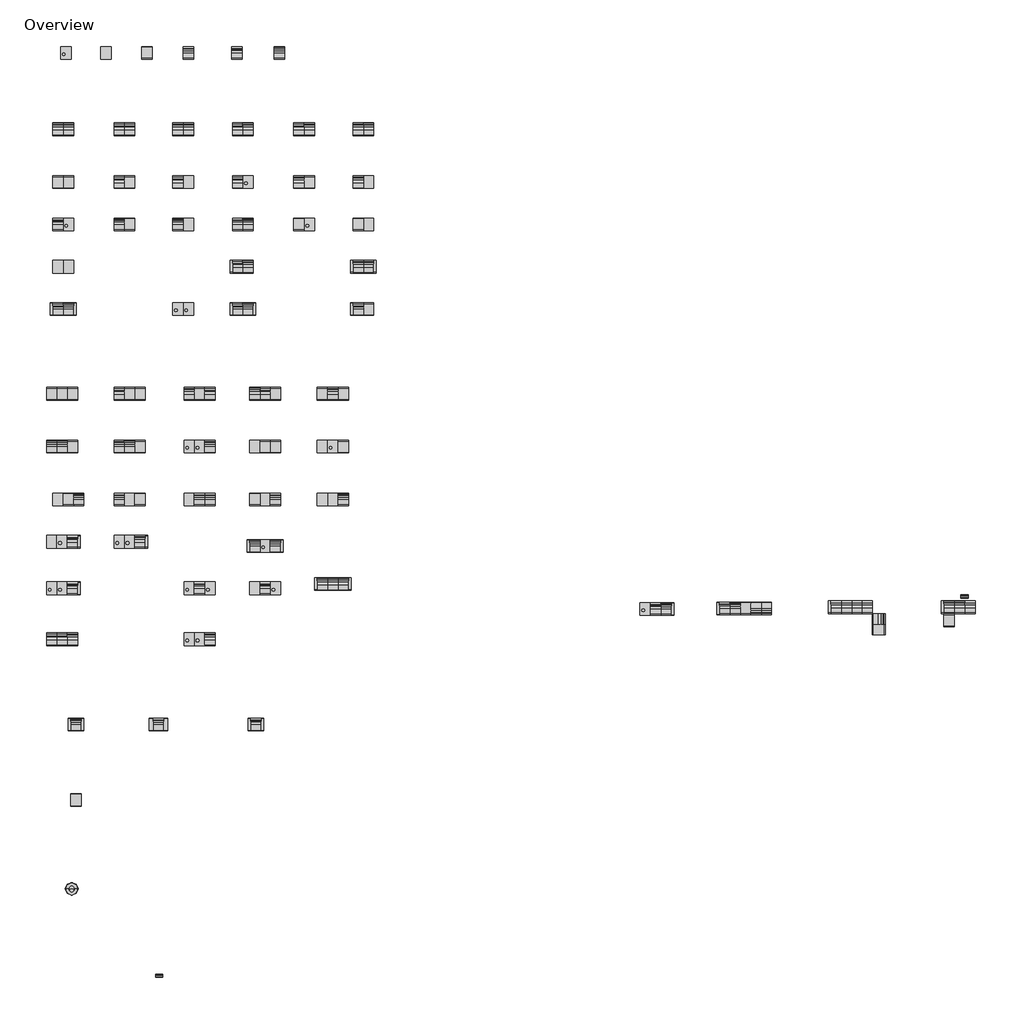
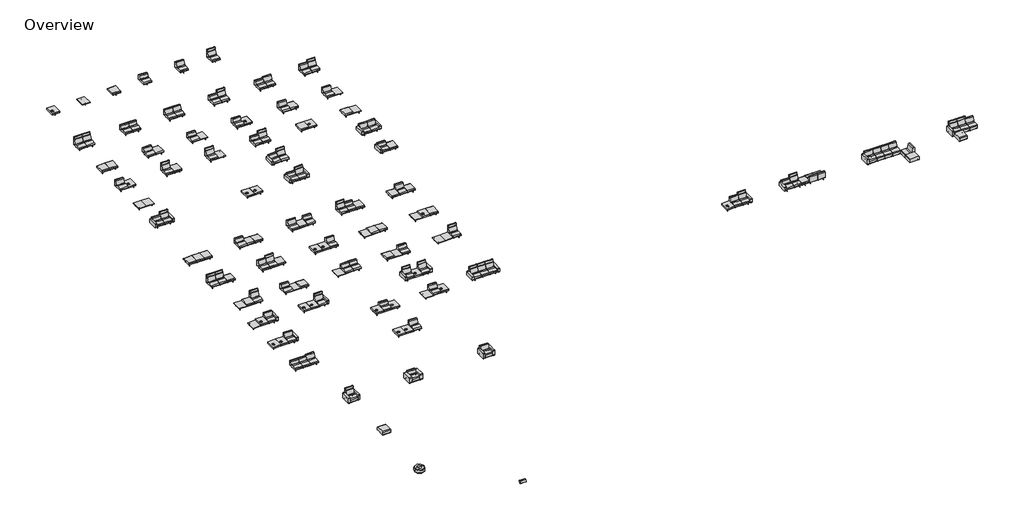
# One storey, incomplete: 76 furniture elements.
"""IFC4 building model written with IfcOpenShell, lengths in millimetres."""

from ifc_helpers import new_model, si_unit, origin, place, context, project, spatial, transform, mapped, element, save
from components import bench_5b4734e7, bench_6cfa080e, box_table_a410ddd7, coalesse_am_seating_bench_sistema_fullyupholstered_bench_4b0fb1e1, coalesse_am_seating_bench_sistema_fullyupholstered_bench_3f9c6e1c, coalesse_am_seating_loungechair_sistema_accessories_lumbar_82db962d, coalesse_am_seating_loungechair_sistema_fullyupholstered_554325c9, coalesse_am_seating_loungechair_sistema_fullyupholstered_6787f364, coalesse_am_seating_loungechair_sistema_fullyupholstered_27f036f4, coalesse_am_seating_loungechair_sistema_fullyupholstered_f212a09f, coalesse_am_seating_loungechair_sistema_fullyupholstered_low_4fc6f266, coalesse_am_seating_loungechair_sistema_fullyupholstered_low_7b113572, coalesse_am_seating_loungechair_sistema_fullyupholstered_8c61c7ce, coalesse_am_seating_loungechair_sistema_fullyupholstered_44f18496, coalesse_am_seating_loungechair_sistema_fullyupholstered_694a9448, coalesse_am_seating_ottoman_sistema_ottoman_4f4713fd, high_back_c0c03560, low_back_c2271a61, medium_back_61e54698, slim_table_b8920834, three_seat_70c7b8ac, three_seat_ff4ae967, three_seat_159c2a03, three_seat_df7bb091, three_seat_312779e2, three_seat_a38e2124, three_seat_9ff78ec4, three_seat_5b71b5bf, three_seat_15cc3591, three_seat_c71d713e, three_seat_8b8f405d, three_seat_1ac1547f, three_seat_83599c98, three_seat_1a70b45b, three_seat_eb3bdbba, three_seat_4d2d78b6, three_seat_79fc0003, three_seat_0f8700ea, three_seat_cafa8f5d, three_seat_b5197ebf, three_seat_e2fe05eb, three_seat_e902c8a6, three_seat_363ece87, three_seat_c6795c9c, two_seat_43e668df, two_seat_70676dcd, two_seat_acb1e659, two_seat_87143def, two_seat_c4276306, two_seat_2878f85a, two_seat_d666f3c4, two_seat_70e73082, two_seat_9187e65d, two_seat_11a0bdf1, two_seat_23a78b14, two_seat_81686d64, two_seat_8f00a96c, two_seat_54fc7ad5, two_seat_571620ac, two_seat_87ee643b, two_seat_fd37afd1, two_seat_1778cc0b, two_seat_900bc99d, two_seat_d71338f1, two_seat_a7b575e1, two_seat_d21a2207, two_seat_aba1a2fd, two_seat_c8171cec, two_seat_e91e775b

model = new_model("IFC4")

# Units and contexts
model_context = context("Model", 3, world=origin())
ifc_project = project(units=[si_unit("LENGTHUNIT", "METRE", prefix="MILLI")], contexts=[model_context])

# Site, building, storey
site = spatial("IfcSite", under=ifc_project)
building = spatial("IfcBuilding", under=site)
storey = spatial("IfcBuildingStorey", under=building, Name="Overview", Elevation=0.0)

# Furniture
placement = place(None, origin())
bench_shape = bench_5b4734e7(model_context)
element("IfcFurniture", 1, ObjectType="Coalesse_AM_Seating_LoungeChair_Sistema_LegBase_OneSeatConnector : Bench", at=placement, inside=storey, context=model_context, shape_type="MappedRepresentation", body=[
    mapped(bench_shape, transform((821199.0648564, -30096.9599772, 0.0), x_axis=(1.0, 0.0, 0.0), y_axis=(0.0, 1.0, 0.0), z_axis=(0.0, 0.0, 1.0))),
])
bench_2_shape = bench_6cfa080e(model_context)
element("IfcFurniture", 2, ObjectType="Coalesse_AM_Seating_LoungeChair_Sistema_LegBase_OneSeatConnector : Bench", at=placement, inside=storey, context=model_context, shape_type="MappedRepresentation", body=[
    mapped(bench_2_shape, transform((778051.7912052, 9913.5845734, 0.0), x_axis=(1.0, 0.0, 0.0), y_axis=(0.0, 1.0, 0.0), z_axis=(0.0, 0.0, 1.0))),
])
box_table_shape = box_table_a410ddd7(model_context)
element("IfcFurniture", 3, ObjectType="Coalesse_AM_Seating_LoungeChair_Sistema_LegBase_OneSeatConnector : Box Table", at=placement, inside=storey, context=model_context, shape_type="MappedRepresentation", body=[
    mapped(box_table_shape, transform((772209.7912052, 9913.5845734, 0.0), x_axis=(1.0, 0.0, 0.0), y_axis=(0.0, 1.0, 0.0), z_axis=(0.0, 0.0, 1.0))),
])
coalesse_am_seating_bench_sistema_fullyupholstered_bench_shape = coalesse_am_seating_bench_sistema_fullyupholstered_bench_4b0fb1e1(model_context)
element("IfcFurniture", 4, ObjectType="Coalesse_AM_Seating_Bench_Sistema_FullyUpholstered : Bench", at=placement, inside=storey, context=model_context, shape_type="MappedRepresentation", body=[
    mapped(coalesse_am_seating_bench_sistema_fullyupholstered_bench_shape, transform((772948.9185284, -43900.247605, 0.0), x_axis=(1.0, 0.0, 0.0), y_axis=(0.0, 1.0, 0.0), z_axis=(0.0, 0.0, 1.0))),
])
coalesse_am_seating_bench_sistema_fullyupholstered_bench_2_shape = coalesse_am_seating_bench_sistema_fullyupholstered_bench_3f9c6e1c(model_context)
element("IfcFurniture", 5, ObjectType="Coalesse_AM_Seating_Bench_Sistema_FullyUpholstered : Bench", at=placement, inside=storey, context=model_context, shape_type="MappedRepresentation", body=[
    mapped(coalesse_am_seating_bench_sistema_fullyupholstered_bench_2_shape, transform((835858.5945626, -30935.4391513, 0.0), x_axis=(1.0, 0.0, 0.0), y_axis=(0.0, 1.0, 0.0), z_axis=(0.0, 0.0, 1.0))),
])
coalesse_am_seating_loungechair_sistema_accessories_lumbar_shape = coalesse_am_seating_loungechair_sistema_accessories_lumbar_82db962d(model_context)
element("IfcFurniture", 6, ObjectType="Coalesse_AM_Seating_LoungeChair_Sistema_Accessories : Lumbar Pillow", at=placement, inside=storey, context=model_context, shape_type="MappedRepresentation", body=[
    mapped(coalesse_am_seating_loungechair_sistema_accessories_lumbar_shape, transform((778944.9101213, -56214.879267, 0.0), x_axis=(1.0, 0.0, 0.0), y_axis=(0.0, 1.0, 0.0), z_axis=(0.0, 0.0, 1.0))),
])
element("IfcFurniture", 7, ObjectType="Coalesse_AM_Seating_LoungeChair_Sistema_Accessories : Lumbar Pillow", at=placement, inside=storey, context=model_context, shape_type="MappedRepresentation", body=[
    mapped(coalesse_am_seating_loungechair_sistema_accessories_lumbar_shape, transform((836988.3637176, -28884.5637386, 0.0), x_axis=(1.0, 0.0, 0.0), y_axis=(0.0, 1.0, 0.0), z_axis=(0.0, 0.0, 1.0))),
])
element("IfcFurniture", 8, ObjectType="Coalesse_AM_Seating_LoungeChair_Sistema_FullyUpholstered : Bench", at=placement, inside=storey, context=model_context, shape_type="MappedRepresentation", body=[
    mapped(coalesse_am_seating_bench_sistema_fullyupholstered_bench_shape, transform((830810.2859285, -31601.2585067, 0.0), x_axis=(0.0, -1.0000000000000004, 0.0), y_axis=(1.0000000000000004, 0.0, 0.0), z_axis=(0.0, 0.0, 1.0))),
])
coalesse_am_seating_loungechair_sistema_fullyupholstered_shape = coalesse_am_seating_loungechair_sistema_fullyupholstered_554325c9(model_context)
element("IfcFurniture", 9, ObjectType="Coalesse_AM_Seating_LoungeChair_Sistema_FullyUpholstered : High Back", at=placement, inside=storey, context=model_context, shape_type="MappedRepresentation", body=[
    mapped(coalesse_am_seating_loungechair_sistema_fullyupholstered_shape, transform((835858.5945626, -30012.8982752, 0.0), x_axis=(1.0, 0.0, 0.0), y_axis=(0.0, 1.0, 0.0), z_axis=(0.0, 0.0, 1.0))),
])
coalesse_am_seating_loungechair_sistema_fullyupholstered_2_shape = coalesse_am_seating_loungechair_sistema_fullyupholstered_6787f364(model_context)
element("IfcFurniture", 10, ObjectType="Coalesse_AM_Seating_LoungeChair_Sistema_FullyUpholstered : High Back", at=placement, inside=storey, context=model_context, shape_type="MappedRepresentation", body=[
    mapped(coalesse_am_seating_loungechair_sistema_fullyupholstered_2_shape, transform((836610.8808787, -30012.8982752, 0.0), x_axis=(1.0, 0.0, 0.0), y_axis=(0.0, 1.0, 0.0), z_axis=(0.0, 0.0, 1.0))),
])
coalesse_am_seating_loungechair_sistema_fullyupholstered_3_shape = coalesse_am_seating_loungechair_sistema_fullyupholstered_27f036f4(model_context)
coalesse_am_seating_loungechair_sistema_fullyupholstered_4_shape = coalesse_am_seating_loungechair_sistema_fullyupholstered_f212a09f(model_context)
element("IfcFurniture", 11, ObjectType="Coalesse_AM_Seating_LoungeChair_Sistema_FullyUpholstered : High Back", at=placement, inside=storey, context=model_context, shape_type="MappedRepresentation", body=[
    mapped(coalesse_am_seating_loungechair_sistema_fullyupholstered_3_shape, transform((772948.9185284, -38456.5108615, 0.0), x_axis=(1.0, 0.0, 0.0), y_axis=(0.0, 1.0, 0.0), z_axis=(0.0, 0.0, 1.0))),
    mapped(coalesse_am_seating_loungechair_sistema_fullyupholstered_4_shape, transform((772948.9185284, -38456.5108615, 0.0), x_axis=(1.0, 0.0, 0.0), y_axis=(0.0, 1.0, 0.0), z_axis=(0.0, 0.0, 1.0))),
])
coalesse_am_seating_loungechair_sistema_fullyupholstered_low_shape = coalesse_am_seating_loungechair_sistema_fullyupholstered_low_4fc6f266(model_context)
coalesse_am_seating_loungechair_sistema_fullyupholstered_low_2_shape = coalesse_am_seating_loungechair_sistema_fullyupholstered_low_7b113572(model_context)
element("IfcFurniture", 12, ObjectType="Coalesse_AM_Seating_LoungeChair_Sistema_FullyUpholstered : Low Back", at=placement, inside=storey, context=model_context, shape_type="MappedRepresentation", body=[
    mapped(coalesse_am_seating_loungechair_sistema_fullyupholstered_low_shape, transform((778892.5185284, -38456.5108615, 0.0), x_axis=(1.0, 0.0, 0.0), y_axis=(0.0, 1.0, 0.0), z_axis=(0.0, 0.0, 1.0))),
    mapped(coalesse_am_seating_loungechair_sistema_fullyupholstered_low_2_shape, transform((778892.5185284, -38456.5108615, 0.0), x_axis=(1.0, 0.0, 0.0), y_axis=(0.0, 1.0, 0.0), z_axis=(0.0, 0.0, 1.0))),
])
coalesse_am_seating_loungechair_sistema_fullyupholstered_5_shape = coalesse_am_seating_loungechair_sistema_fullyupholstered_8c61c7ce(model_context)
element("IfcFurniture", 13, ObjectType="Coalesse_AM_Seating_LoungeChair_Sistema_FullyUpholstered : Medium Back", at=placement, inside=storey, context=model_context, shape_type="MappedRepresentation", body=[
    mapped(coalesse_am_seating_loungechair_sistema_fullyupholstered_5_shape, transform((827714.6737032, -30012.8982752, 0.0), x_axis=(1.0, 0.0, 0.0), y_axis=(0.0, 1.0, 0.0), z_axis=(0.0, 0.0, 1.0))),
])
coalesse_am_seating_loungechair_sistema_fullyupholstered_6_shape = coalesse_am_seating_loungechair_sistema_fullyupholstered_44f18496(model_context)
element("IfcFurniture", 14, ObjectType="Coalesse_AM_Seating_LoungeChair_Sistema_FullyUpholstered : Medium Back", at=placement, inside=storey, context=model_context, shape_type="MappedRepresentation", body=[
    mapped(coalesse_am_seating_loungechair_sistema_fullyupholstered_6_shape, transform((828466.9600193, -30012.8982752, 0.0), x_axis=(1.0, 0.0, 0.0), y_axis=(0.0, 1.0, 0.0), z_axis=(0.0, 0.0, 1.0))),
])
element("IfcFurniture", 15, ObjectType="Coalesse_AM_Seating_LoungeChair_Sistema_FullyUpholstered : Medium Back", at=placement, inside=storey, context=model_context, shape_type="MappedRepresentation", body=[
    mapped(coalesse_am_seating_loungechair_sistema_fullyupholstered_6_shape, transform((829219.2463355, -30012.8982752, 0.0), x_axis=(1.0, 0.0, 0.0), y_axis=(0.0, 1.0, 0.0), z_axis=(0.0, 0.0, 1.0))),
])
element("IfcFurniture", 16, ObjectType="Coalesse_AM_Seating_LoungeChair_Sistema_FullyUpholstered : Medium Back", at=placement, inside=storey, context=model_context, shape_type="MappedRepresentation", body=[
    mapped(coalesse_am_seating_loungechair_sistema_fullyupholstered_6_shape, transform((829971.5326516, -30012.8982752, 0.0), x_axis=(1.0, 0.0, 0.0), y_axis=(0.0, 1.0, 0.0), z_axis=(0.0, 0.0, 1.0))),
])
element("IfcFurniture", 17, ObjectType="Coalesse_AM_Seating_LoungeChair_Sistema_FullyUpholstered : Medium Back", at=placement, inside=storey, context=model_context, shape_type="MappedRepresentation", body=[
    mapped(coalesse_am_seating_loungechair_sistema_fullyupholstered_6_shape, transform((830810.2859285, -30848.9721906, 0.0), x_axis=(0.0, -1.0000000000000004, 0.0), y_axis=(1.0000000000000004, 0.0, 0.0), z_axis=(0.0, 0.0, 1.0))),
])
element("IfcFurniture", 18, ObjectType="Coalesse_AM_Seating_LoungeChair_Sistema_FullyUpholstered : Medium Back", at=placement, inside=storey, context=model_context, shape_type="MappedRepresentation", body=[
    mapped(coalesse_am_seating_loungechair_sistema_fullyupholstered_6_shape, transform((837363.1671949, -30012.8982752, 0.0), x_axis=(1.0, 0.0, 0.0), y_axis=(0.0, 1.0, 0.0), z_axis=(0.0, 0.0, 1.0))),
])
coalesse_am_seating_loungechair_sistema_fullyupholstered_7_shape = coalesse_am_seating_loungechair_sistema_fullyupholstered_694a9448(model_context)
element("IfcFurniture", 19, ObjectType="Coalesse_AM_Seating_LoungeChair_Sistema_FullyUpholstered : Medium Back", at=placement, inside=storey, context=model_context, shape_type="MappedRepresentation", body=[
    mapped(coalesse_am_seating_loungechair_sistema_fullyupholstered_3_shape, transform((785902.9185284, -38456.5108615, 0.0), x_axis=(1.0, 0.0, 0.0), y_axis=(0.0, 1.0, 0.0), z_axis=(0.0, 0.0, 1.0))),
    mapped(coalesse_am_seating_loungechair_sistema_fullyupholstered_7_shape, transform((785902.9185284, -38456.5108615, 0.0), x_axis=(1.0, 0.0, 0.0), y_axis=(0.0, 1.0, 0.0), z_axis=(0.0, 0.0, 1.0))),
])
coalesse_am_seating_ottoman_sistema_ottoman_shape = coalesse_am_seating_ottoman_sistema_ottoman_4f4713fd(model_context)
element("IfcFurniture", 20, ObjectType="Coalesse_AM_Seating_Ottoman_Sistema : Ottoman", at=placement, inside=storey, context=model_context, shape_type="MappedRepresentation", body=[
    mapped(coalesse_am_seating_ottoman_sistema_ottoman_shape, transform((772640.8280656, -49922.881785, 0.0), x_axis=(1.0, 0.0, 0.0), y_axis=(0.0, 1.0, 0.0), z_axis=(0.0, 0.0, 1.0))),
])
high_back_shape = high_back_c0c03560(model_context)
element("IfcFurniture", 21, ObjectType="Coalesse_AM_Seating_LoungeChair_Sistema_LegBase_OneSeatConnector : High Back", at=placement, inside=storey, context=model_context, shape_type="MappedRepresentation", body=[
    mapped(high_back_shape, transform((787602.1912052, 9913.5845734, 0.0), x_axis=(1.0, 0.0, 0.0), y_axis=(0.0, 1.0, 0.0), z_axis=(0.0, 0.0, 1.0))),
])
low_back_shape = low_back_c2271a61(model_context)
element("IfcFurniture", 22, ObjectType="Coalesse_AM_Seating_LoungeChair_Sistema_LegBase_OneSeatConnector : Low Back", at=placement, inside=storey, context=model_context, shape_type="MappedRepresentation", body=[
    mapped(low_back_shape, transform((781048.9912052, 9913.5845734, 0.0), x_axis=(1.0, 0.0, 0.0), y_axis=(0.0, 1.0, 0.0), z_axis=(0.0, 0.0, 1.0))),
])
medium_back_shape = medium_back_61e54698(model_context)
element("IfcFurniture", 23, ObjectType="Coalesse_AM_Seating_LoungeChair_Sistema_LegBase_OneSeatConnector : Medium Back", at=placement, inside=storey, context=model_context, shape_type="MappedRepresentation", body=[
    mapped(medium_back_shape, transform((784554.1912052, 9913.5845734, 0.0), x_axis=(1.0, 0.0, 0.0), y_axis=(0.0, 1.0, 0.0), z_axis=(0.0, 0.0, 1.0))),
])
slim_table_shape = slim_table_b8920834(model_context)
element("IfcFurniture", 24, ObjectType="Coalesse_AM_Seating_LoungeChair_Sistema_LegBase_OneSeatConnector : Slim Table", at=placement, inside=storey, context=model_context, shape_type="MappedRepresentation", body=[
    mapped(slim_table_shape, transform((775105.3912052, 9913.5845734, 0.0), x_axis=(1.0, 0.0, 0.0), y_axis=(0.0, 1.0, 0.0), z_axis=(0.0, 0.0, 1.0))),
])
three_seat_shape = three_seat_70c7b8ac(model_context)
element("IfcFurniture", 25, ObjectType="Coalesse_AM_Seating_LoungeChair_Sistema_LegBase_ThreeSeat : Three Seat", at=placement, inside=storey, context=model_context, shape_type="MappedRepresentation", body=[
    mapped(three_seat_shape, transform((781106.6177168, -18439.1654266, 0.0), x_axis=(1.0, 0.0, 0.0), y_axis=(0.0, 1.0, 0.0), z_axis=(0.0, 0.0, 1.0))),
])
element("IfcFurniture", 26, ObjectType="Coalesse_AM_Seating_LoungeChair_Sistema_LegBase_ThreeSeat : Three Seat", at=placement, inside=storey, context=model_context, shape_type="MappedRepresentation", body=[
    mapped(three_seat_shape, transform((781106.6177168, -32307.5654266, 0.0), x_axis=(1.0, 0.0, 0.0), y_axis=(0.0, 1.0, 0.0), z_axis=(0.0, 0.0, 1.0))),
])
three_seat_2_shape = three_seat_ff4ae967(model_context)
element("IfcFurniture", 27, ObjectType="Coalesse_AM_Seating_LoungeChair_Sistema_LegBase_ThreeSeat : Three Seat", at=placement, inside=storey, context=model_context, shape_type="MappedRepresentation", body=[
    mapped(three_seat_2_shape, transform((771200.6177168, -14629.1654266, 0.0), x_axis=(1.0, 0.0, 0.0), y_axis=(0.0, 1.0, 0.0), z_axis=(0.0, 0.0, 1.0))),
])
three_seat_3_shape = three_seat_159c2a03(model_context)
element("IfcFurniture", 28, ObjectType="Coalesse_AM_Seating_LoungeChair_Sistema_LegBase_ThreeSeat : Three Seat", at=placement, inside=storey, context=model_context, shape_type="MappedRepresentation", body=[
    mapped(three_seat_3_shape, transform((813975.7975806, -30133.5452116, 0.0), x_axis=(1.0, 0.0, 0.0), y_axis=(0.0, 1.0, 0.0), z_axis=(0.0, 0.0, 1.0))),
])
three_seat_4_shape = three_seat_df7bb091(model_context)
element("IfcFurniture", 29, ObjectType="Coalesse_AM_Seating_LoungeChair_Sistema_LegBase_ThreeSeat : Three Seat", at=placement, inside=storey, context=model_context, shape_type="MappedRepresentation", body=[
    mapped(three_seat_4_shape, transform((776062.9801203, -14629.1654266, 0.0), x_axis=(1.0, 0.0, 0.0), y_axis=(0.0, 1.0, 0.0), z_axis=(0.0, 0.0, 1.0))),
])
three_seat_5_shape = three_seat_312779e2(model_context)
element("IfcFurniture", 30, ObjectType="Coalesse_AM_Seating_LoungeChair_Sistema_LegBase_ThreeSeat : Three Seat", at=placement, inside=storey, context=model_context, shape_type="MappedRepresentation", body=[
    mapped(three_seat_5_shape, transform((781106.6177168, -14629.1654266, 0.0), x_axis=(1.0, 0.0, 0.0), y_axis=(0.0, 1.0, 0.0), z_axis=(0.0, 0.0, 1.0))),
])
three_seat_6_shape = three_seat_a38e2124(model_context)
element("IfcFurniture", 31, ObjectType="Coalesse_AM_Seating_LoungeChair_Sistema_LegBase_ThreeSeat : Three Seat", at=placement, inside=storey, context=model_context, shape_type="MappedRepresentation", body=[
    mapped(three_seat_6_shape, transform((785831.0177168, -14629.1654266, 0.0), x_axis=(1.0, 0.0, 0.0), y_axis=(0.0, 1.0, 0.0), z_axis=(0.0, 0.0, 1.0))),
])
three_seat_7_shape = three_seat_9ff78ec4(model_context)
element("IfcFurniture", 32, ObjectType="Coalesse_AM_Seating_LoungeChair_Sistema_LegBase_ThreeSeat : Three Seat", at=placement, inside=storey, context=model_context, shape_type="MappedRepresentation", body=[
    mapped(three_seat_7_shape, transform((790707.8177168, -14629.1654266, 0.0), x_axis=(1.0, 0.0, 0.0), y_axis=(0.0, 1.0, 0.0), z_axis=(0.0, 0.0, 1.0))),
])
three_seat_8_shape = three_seat_5b71b5bf(model_context)
element("IfcFurniture", 33, ObjectType="Coalesse_AM_Seating_LoungeChair_Sistema_LegBase_ThreeSeat : Three Seat", at=placement, inside=storey, context=model_context, shape_type="MappedRepresentation", body=[
    mapped(three_seat_8_shape, transform((771200.6177168, -18439.1654266, 0.0), x_axis=(1.0, 0.0, 0.0), y_axis=(0.0, 1.0, 0.0), z_axis=(0.0, 0.0, 1.0))),
])
three_seat_9_shape = three_seat_15cc3591(model_context)
element("IfcFurniture", 34, ObjectType="Coalesse_AM_Seating_LoungeChair_Sistema_LegBase_ThreeSeat : Three Seat", at=placement, inside=storey, context=model_context, shape_type="MappedRepresentation", body=[
    mapped(three_seat_9_shape, transform((776062.9801203, -18439.1654266, 0.0), x_axis=(1.0, 0.0, 0.0), y_axis=(0.0, 1.0, 0.0), z_axis=(0.0, 0.0, 1.0))),
])
three_seat_10_shape = three_seat_c71d713e(model_context)
element("IfcFurniture", 35, ObjectType="Coalesse_AM_Seating_LoungeChair_Sistema_LegBase_ThreeSeat : Three Seat", at=placement, inside=storey, context=model_context, shape_type="MappedRepresentation", body=[
    mapped(three_seat_10_shape, transform((785831.0177168, -18439.1654266, 0.0), x_axis=(1.0, 0.0, 0.0), y_axis=(0.0, 1.0, 0.0), z_axis=(0.0, 0.0, 1.0))),
])
three_seat_11_shape = three_seat_8b8f405d(model_context)
element("IfcFurniture", 36, ObjectType="Coalesse_AM_Seating_LoungeChair_Sistema_LegBase_ThreeSeat : Three Seat", at=placement, inside=storey, context=model_context, shape_type="MappedRepresentation", body=[
    mapped(three_seat_11_shape, transform((790707.8177168, -18439.1654266, 0.0), x_axis=(1.0, 0.0, 0.0), y_axis=(0.0, 1.0, 0.0), z_axis=(0.0, 0.0, 1.0))),
])
three_seat_12_shape = three_seat_1ac1547f(model_context)
element("IfcFurniture", 37, ObjectType="Coalesse_AM_Seating_LoungeChair_Sistema_LegBase_ThreeSeat : Three Seat", at=placement, inside=storey, context=model_context, shape_type="MappedRepresentation", body=[
    mapped(three_seat_12_shape, transform((771645.1177168, -22249.1654266, 0.0), x_axis=(1.0, 0.0, 0.0), y_axis=(0.0, 1.0, 0.0), z_axis=(0.0, 0.0, 1.0))),
])
three_seat_13_shape = three_seat_83599c98(model_context)
element("IfcFurniture", 38, ObjectType="Coalesse_AM_Seating_LoungeChair_Sistema_LegBase_ThreeSeat : Three Seat", at=placement, inside=storey, context=model_context, shape_type="MappedRepresentation", body=[
    mapped(three_seat_13_shape, transform((776062.9801203, -22249.1654266, 0.0), x_axis=(1.0, 0.0, 0.0), y_axis=(0.0, 1.0, 0.0), z_axis=(0.0, 0.0, 1.0))),
])
three_seat_14_shape = three_seat_1a70b45b(model_context)
element("IfcFurniture", 39, ObjectType="Coalesse_AM_Seating_LoungeChair_Sistema_LegBase_ThreeSeat : Three Seat", at=placement, inside=storey, context=model_context, shape_type="MappedRepresentation", body=[
    mapped(three_seat_14_shape, transform((781106.6177168, -22249.1654266, 0.0), x_axis=(1.0, 0.0, 0.0), y_axis=(0.0, 1.0, 0.0), z_axis=(0.0, 0.0, 1.0))),
])
three_seat_15_shape = three_seat_eb3bdbba(model_context)
element("IfcFurniture", 40, ObjectType="Coalesse_AM_Seating_LoungeChair_Sistema_LegBase_ThreeSeat : Three Seat", at=placement, inside=storey, context=model_context, shape_type="MappedRepresentation", body=[
    mapped(three_seat_15_shape, transform((785831.0177168, -22249.1654266, 0.0), x_axis=(1.0, 0.0, 0.0), y_axis=(0.0, 1.0, 0.0), z_axis=(0.0, 0.0, 1.0))),
])
three_seat_16_shape = three_seat_4d2d78b6(model_context)
element("IfcFurniture", 41, ObjectType="Coalesse_AM_Seating_LoungeChair_Sistema_LegBase_ThreeSeat : Three Seat", at=placement, inside=storey, context=model_context, shape_type="MappedRepresentation", body=[
    mapped(three_seat_16_shape, transform((790707.8177168, -22249.1654266, 0.0), x_axis=(1.0, 0.0, 0.0), y_axis=(0.0, 1.0, 0.0), z_axis=(0.0, 0.0, 1.0))),
])
three_seat_17_shape = three_seat_79fc0003(model_context)
element("IfcFurniture", 42, ObjectType="Coalesse_AM_Seating_LoungeChair_Sistema_LegBase_ThreeSeat : Three Seat", at=placement, inside=storey, context=model_context, shape_type="MappedRepresentation", body=[
    mapped(three_seat_17_shape, transform((771200.6177168, -25297.1654266, 0.0), x_axis=(1.0, 0.0, 0.0), y_axis=(0.0, 1.0, 0.0), z_axis=(0.0, 0.0, 1.0))),
])
three_seat_18_shape = three_seat_0f8700ea(model_context)
element("IfcFurniture", 43, ObjectType="Coalesse_AM_Seating_LoungeChair_Sistema_LegBase_ThreeSeat : Three Seat", at=placement, inside=storey, context=model_context, shape_type="MappedRepresentation", body=[
    mapped(three_seat_18_shape, transform((776062.9801203, -25297.1654266, 0.0), x_axis=(1.0, 0.0, 0.0), y_axis=(0.0, 1.0, 0.0), z_axis=(0.0, 0.0, 1.0))),
])
three_seat_19_shape = three_seat_cafa8f5d(model_context)
element("IfcFurniture", 44, ObjectType="Coalesse_AM_Seating_LoungeChair_Sistema_LegBase_ThreeSeat : Three Seat", at=placement, inside=storey, context=model_context, shape_type="MappedRepresentation", body=[
    mapped(three_seat_19_shape, transform((785831.0177168, -25601.9654266, 0.0), x_axis=(1.0, 0.0, 0.0), y_axis=(0.0, 1.0, 0.0), z_axis=(0.0, 0.0, 1.0))),
])
three_seat_20_shape = three_seat_b5197ebf(model_context)
element("IfcFurniture", 45, ObjectType="Coalesse_AM_Seating_LoungeChair_Sistema_LegBase_ThreeSeat : Three Seat", at=placement, inside=storey, context=model_context, shape_type="MappedRepresentation", body=[
    mapped(three_seat_20_shape, transform((771200.6177168, -28649.9654266, 0.0), x_axis=(1.0, 0.0, 0.0), y_axis=(0.0, 1.0, 0.0), z_axis=(0.0, 0.0, 1.0))),
])
three_seat_21_shape = three_seat_e2fe05eb(model_context)
element("IfcFurniture", 46, ObjectType="Coalesse_AM_Seating_LoungeChair_Sistema_LegBase_ThreeSeat : Three Seat", at=placement, inside=storey, context=model_context, shape_type="MappedRepresentation", body=[
    mapped(three_seat_21_shape, transform((781106.6177168, -28649.9654266, 0.0), x_axis=(1.0, 0.0, 0.0), y_axis=(0.0, 1.0, 0.0), z_axis=(0.0, 0.0, 1.0))),
])
three_seat_22_shape = three_seat_e902c8a6(model_context)
element("IfcFurniture", 47, ObjectType="Coalesse_AM_Seating_LoungeChair_Sistema_LegBase_ThreeSeat : Three Seat", at=placement, inside=storey, context=model_context, shape_type="MappedRepresentation", body=[
    mapped(three_seat_22_shape, transform((785831.0177168, -28649.9654266, 0.0), x_axis=(1.0, 0.0, 0.0), y_axis=(0.0, 1.0, 0.0), z_axis=(0.0, 0.0, 1.0))),
])
three_seat_23_shape = three_seat_363ece87(model_context)
element("IfcFurniture", 48, ObjectType="Coalesse_AM_Seating_LoungeChair_Sistema_LegBase_ThreeSeat : Three Seat", at=placement, inside=storey, context=model_context, shape_type="MappedRepresentation", body=[
    mapped(three_seat_23_shape, transform((790707.8177168, -28345.1654266, 0.0), x_axis=(1.0, 0.0, 0.0), y_axis=(0.0, 1.0, 0.0), z_axis=(0.0, 0.0, 1.0))),
])
three_seat_24_shape = three_seat_c6795c9c(model_context)
element("IfcFurniture", 49, ObjectType="Coalesse_AM_Seating_LoungeChair_Sistema_LegBase_ThreeSeat : Three Seat", at=placement, inside=storey, context=model_context, shape_type="MappedRepresentation", body=[
    mapped(three_seat_24_shape, transform((771200.6177168, -32307.5654266, 0.0), x_axis=(1.0, 0.0, 0.0), y_axis=(0.0, 1.0, 0.0), z_axis=(0.0, 0.0, 1.0))),
])
two_seat_shape = two_seat_43e668df(model_context)
element("IfcFurniture", 50, ObjectType="Coalesse_AM_Seating_LoungeChair_Sistema_LegBase_TwoSeat : Two Seat", at=placement, inside=storey, context=model_context, shape_type="MappedRepresentation", body=[
    mapped(two_seat_shape, transform((784599.1177168, 4420.8345734, 0.0), x_axis=(1.0, 0.0, 0.0), y_axis=(0.0, 1.0, 0.0), z_axis=(0.0, 0.0, 1.0))),
])
element("IfcFurniture", 51, ObjectType="Coalesse_AM_Seating_LoungeChair_Sistema_LegBase_TwoSeat : Two Seat", at=placement, inside=storey, context=model_context, shape_type="MappedRepresentation", body=[
    mapped(two_seat_shape, transform((784599.1177168, -2437.1654266, 0.0), x_axis=(1.0, 0.0, 0.0), y_axis=(0.0, 1.0, 0.0), z_axis=(0.0, 0.0, 1.0))),
])
two_seat_2_shape = two_seat_70676dcd(model_context)
element("IfcFurniture", 52, ObjectType="Coalesse_AM_Seating_LoungeChair_Sistema_LegBase_TwoSeat : Two Seat", at=placement, inside=storey, context=model_context, shape_type="MappedRepresentation", body=[
    mapped(two_seat_2_shape, transform((771645.1177168, 4420.8345734, 0.0), x_axis=(1.0, 0.0, 0.0), y_axis=(0.0, 1.0, 0.0), z_axis=(0.0, 0.0, 1.0))),
])
two_seat_3_shape = two_seat_acb1e659(model_context)
element("IfcFurniture", 53, ObjectType="Coalesse_AM_Seating_LoungeChair_Sistema_LegBase_TwoSeat : Two Seat", at=placement, inside=storey, context=model_context, shape_type="MappedRepresentation", body=[
    mapped(two_seat_3_shape, transform((819700.4648564, -30096.9599772, 0.0), x_axis=(1.0, 0.0, 0.0), y_axis=(0.0, 1.0, 0.0), z_axis=(0.0, 0.0, 1.0))),
])
two_seat_4_shape = two_seat_87143def(model_context)
element("IfcFurniture", 54, ObjectType="Coalesse_AM_Seating_LoungeChair_Sistema_LegBase_TwoSeat : Two Seat", at=placement, inside=storey, context=model_context, shape_type="MappedRepresentation", body=[
    mapped(two_seat_4_shape, transform((821951.3511726, -30098.7508533, 0.0), x_axis=(1.0, 0.0, 0.0), y_axis=(0.0, 1.0, 0.0), z_axis=(0.0, 0.0, 1.0))),
])
two_seat_5_shape = two_seat_c4276306(model_context)
element("IfcFurniture", 55, ObjectType="Coalesse_AM_Seating_LoungeChair_Sistema_LegBase_TwoSeat : Two Seat", at=placement, inside=storey, context=model_context, shape_type="MappedRepresentation", body=[
    mapped(two_seat_5_shape, transform((776062.9801203, 4420.8345734, 0.0), x_axis=(1.0, 0.0, 0.0), y_axis=(0.0, 1.0, 0.0), z_axis=(0.0, 0.0, 1.0))),
])
two_seat_6_shape = two_seat_2878f85a(model_context)
element("IfcFurniture", 56, ObjectType="Coalesse_AM_Seating_LoungeChair_Sistema_LegBase_TwoSeat : Two Seat", at=placement, inside=storey, context=model_context, shape_type="MappedRepresentation", body=[
    mapped(two_seat_6_shape, transform((780299.8446826, 4420.8345734, 0.0), x_axis=(1.0, 0.0, 0.0), y_axis=(0.0, 1.0, 0.0), z_axis=(0.0, 0.0, 1.0))),
])
two_seat_7_shape = two_seat_d666f3c4(model_context)
element("IfcFurniture", 57, ObjectType="Coalesse_AM_Seating_LoungeChair_Sistema_LegBase_TwoSeat : Two Seat", at=placement, inside=storey, context=model_context, shape_type="MappedRepresentation", body=[
    mapped(two_seat_7_shape, transform((789018.7177168, 4420.8345734, 0.0), x_axis=(1.0, 0.0, 0.0), y_axis=(0.0, 1.0, 0.0), z_axis=(0.0, 0.0, 1.0))),
])
two_seat_8_shape = two_seat_70e73082(model_context)
element("IfcFurniture", 58, ObjectType="Coalesse_AM_Seating_LoungeChair_Sistema_LegBase_TwoSeat : Two Seat", at=placement, inside=storey, context=model_context, shape_type="MappedRepresentation", body=[
    mapped(two_seat_8_shape, transform((793285.9177168, 4420.8345734, 0.0), x_axis=(1.0, 0.0, 0.0), y_axis=(0.0, 1.0, 0.0), z_axis=(0.0, 0.0, 1.0))),
])
two_seat_9_shape = two_seat_9187e65d(model_context)
element("IfcFurniture", 59, ObjectType="Coalesse_AM_Seating_LoungeChair_Sistema_LegBase_TwoSeat : Two Seat", at=placement, inside=storey, context=model_context, shape_type="MappedRepresentation", body=[
    mapped(two_seat_9_shape, transform((771645.1177168, 610.8345734, 0.0), x_axis=(1.0, 0.0, 0.0), y_axis=(0.0, 1.0, 0.0), z_axis=(0.0, 0.0, 1.0))),
])
two_seat_10_shape = two_seat_11a0bdf1(model_context)
element("IfcFurniture", 60, ObjectType="Coalesse_AM_Seating_LoungeChair_Sistema_LegBase_TwoSeat : Two Seat", at=placement, inside=storey, context=model_context, shape_type="MappedRepresentation", body=[
    mapped(two_seat_10_shape, transform((776062.9801203, 610.8345734, 0.0), x_axis=(1.0, 0.0, 0.0), y_axis=(0.0, 1.0, 0.0), z_axis=(0.0, 0.0, 1.0))),
])
two_seat_11_shape = two_seat_23a78b14(model_context)
element("IfcFurniture", 61, ObjectType="Coalesse_AM_Seating_LoungeChair_Sistema_LegBase_TwoSeat : Two Seat", at=placement, inside=storey, context=model_context, shape_type="MappedRepresentation", body=[
    mapped(two_seat_11_shape, transform((780299.8446826, 610.8345734, 0.0), x_axis=(1.0, 0.0, 0.0), y_axis=(0.0, 1.0, 0.0), z_axis=(0.0, 0.0, 1.0))),
])
two_seat_12_shape = two_seat_81686d64(model_context)
element("IfcFurniture", 62, ObjectType="Coalesse_AM_Seating_LoungeChair_Sistema_LegBase_TwoSeat : Two Seat", at=placement, inside=storey, context=model_context, shape_type="MappedRepresentation", body=[
    mapped(two_seat_12_shape, transform((784599.1177168, 610.8345734, 0.0), x_axis=(1.0, 0.0, 0.0), y_axis=(0.0, 1.0, 0.0), z_axis=(0.0, 0.0, 1.0))),
])
two_seat_13_shape = two_seat_8f00a96c(model_context)
element("IfcFurniture", 63, ObjectType="Coalesse_AM_Seating_LoungeChair_Sistema_LegBase_TwoSeat : Two Seat", at=placement, inside=storey, context=model_context, shape_type="MappedRepresentation", body=[
    mapped(two_seat_13_shape, transform((789018.7177168, 610.8345734, 0.0), x_axis=(1.0, 0.0, 0.0), y_axis=(0.0, 1.0, 0.0), z_axis=(0.0, 0.0, 1.0))),
])
two_seat_14_shape = two_seat_54fc7ad5(model_context)
element("IfcFurniture", 64, ObjectType="Coalesse_AM_Seating_LoungeChair_Sistema_LegBase_TwoSeat : Two Seat", at=placement, inside=storey, context=model_context, shape_type="MappedRepresentation", body=[
    mapped(two_seat_14_shape, transform((793285.9177168, 610.8345734, 0.0), x_axis=(1.0, 0.0, 0.0), y_axis=(0.0, 1.0, 0.0), z_axis=(0.0, 0.0, 1.0))),
])
two_seat_15_shape = two_seat_571620ac(model_context)
element("IfcFurniture", 65, ObjectType="Coalesse_AM_Seating_LoungeChair_Sistema_LegBase_TwoSeat : Two Seat", at=placement, inside=storey, context=model_context, shape_type="MappedRepresentation", body=[
    mapped(two_seat_15_shape, transform((771645.1177168, -2437.1654266, 0.0), x_axis=(1.0, 0.0, 0.0), y_axis=(0.0, 1.0, 0.0), z_axis=(0.0, 0.0, 1.0))),
])
two_seat_16_shape = two_seat_87ee643b(model_context)
element("IfcFurniture", 66, ObjectType="Coalesse_AM_Seating_LoungeChair_Sistema_LegBase_TwoSeat : Two Seat", at=placement, inside=storey, context=model_context, shape_type="MappedRepresentation", body=[
    mapped(two_seat_16_shape, transform((776062.9801203, -2437.1654266, 0.0), x_axis=(1.0, 0.0, 0.0), y_axis=(0.0, 1.0, 0.0), z_axis=(0.0, 0.0, 1.0))),
])
two_seat_17_shape = two_seat_fd37afd1(model_context)
element("IfcFurniture", 67, ObjectType="Coalesse_AM_Seating_LoungeChair_Sistema_LegBase_TwoSeat : Two Seat", at=placement, inside=storey, context=model_context, shape_type="MappedRepresentation", body=[
    mapped(two_seat_17_shape, transform((780299.8446826, -2437.1654266, 0.0), x_axis=(1.0, 0.0, 0.0), y_axis=(0.0, 1.0, 0.0), z_axis=(0.0, 0.0, 1.0))),
])
two_seat_18_shape = two_seat_1778cc0b(model_context)
element("IfcFurniture", 68, ObjectType="Coalesse_AM_Seating_LoungeChair_Sistema_LegBase_TwoSeat : Two Seat", at=placement, inside=storey, context=model_context, shape_type="MappedRepresentation", body=[
    mapped(two_seat_18_shape, transform((789018.7177168, -2437.1654266, 0.0), x_axis=(1.0, 0.0, 0.0), y_axis=(0.0, 1.0, 0.0), z_axis=(0.0, 0.0, 1.0))),
])
two_seat_19_shape = two_seat_900bc99d(model_context)
element("IfcFurniture", 69, ObjectType="Coalesse_AM_Seating_LoungeChair_Sistema_LegBase_TwoSeat : Two Seat", at=placement, inside=storey, context=model_context, shape_type="MappedRepresentation", body=[
    mapped(two_seat_19_shape, transform((793285.9177168, -2437.1654266, 0.0), x_axis=(1.0, 0.0, 0.0), y_axis=(0.0, 1.0, 0.0), z_axis=(0.0, 0.0, 1.0))),
])
two_seat_20_shape = two_seat_d71338f1(model_context)
element("IfcFurniture", 70, ObjectType="Coalesse_AM_Seating_LoungeChair_Sistema_LegBase_TwoSeat : Two Seat", at=placement, inside=storey, context=model_context, shape_type="MappedRepresentation", body=[
    mapped(two_seat_20_shape, transform((771645.1177168, -5485.1654266, 0.0), x_axis=(1.0, 0.0, 0.0), y_axis=(0.0, 1.0, 0.0), z_axis=(0.0, 0.0, 1.0))),
])
two_seat_21_shape = two_seat_a7b575e1(model_context)
element("IfcFurniture", 71, ObjectType="Coalesse_AM_Seating_LoungeChair_Sistema_LegBase_TwoSeat : Two Seat", at=placement, inside=storey, context=model_context, shape_type="MappedRepresentation", body=[
    mapped(two_seat_21_shape, transform((784599.1177168, -5485.1654266, 0.0), x_axis=(1.0, 0.0, 0.0), y_axis=(0.0, 1.0, 0.0), z_axis=(0.0, 0.0, 1.0))),
])
two_seat_22_shape = two_seat_d21a2207(model_context)
element("IfcFurniture", 72, ObjectType="Coalesse_AM_Seating_LoungeChair_Sistema_LegBase_TwoSeat : Two Seat", at=placement, inside=storey, context=model_context, shape_type="MappedRepresentation", body=[
    mapped(two_seat_22_shape, transform((793285.9177168, -5485.1654266, 0.0), x_axis=(1.0, 0.0, 0.0), y_axis=(0.0, 1.0, 0.0), z_axis=(0.0, 0.0, 1.0))),
])
two_seat_23_shape = two_seat_aba1a2fd(model_context)
element("IfcFurniture", 73, ObjectType="Coalesse_AM_Seating_LoungeChair_Sistema_LegBase_TwoSeat : Two Seat", at=placement, inside=storey, context=model_context, shape_type="MappedRepresentation", body=[
    mapped(two_seat_23_shape, transform((771645.1177168, -8533.1654266, 0.0), x_axis=(1.0, 0.0, 0.0), y_axis=(0.0, 1.0, 0.0), z_axis=(0.0, 0.0, 1.0))),
])
element("IfcFurniture", 74, ObjectType="Coalesse_AM_Seating_LoungeChair_Sistema_LegBase_TwoSeat : Two Seat", at=placement, inside=storey, context=model_context, shape_type="MappedRepresentation", body=[
    mapped(two_seat_23_shape, transform((784599.1177168, -8533.1654266, 0.0), x_axis=(1.0, 0.0, 0.0), y_axis=(0.0, 1.0, 0.0), z_axis=(0.0, 0.0, 1.0))),
])
two_seat_24_shape = two_seat_c8171cec(model_context)
element("IfcFurniture", 75, ObjectType="Coalesse_AM_Seating_LoungeChair_Sistema_LegBase_TwoSeat : Two Seat", at=placement, inside=storey, context=model_context, shape_type="MappedRepresentation", body=[
    mapped(two_seat_24_shape, transform((780299.8446826, -8533.1654266, 0.0), x_axis=(1.0, 0.0, 0.0), y_axis=(0.0, 1.0, 0.0), z_axis=(0.0, 0.0, 1.0))),
])
two_seat_25_shape = two_seat_e91e775b(model_context)
element("IfcFurniture", 76, ObjectType="Coalesse_AM_Seating_LoungeChair_Sistema_LegBase_TwoSeat : Two Seat", at=placement, inside=storey, context=model_context, shape_type="MappedRepresentation", body=[
    mapped(two_seat_25_shape, transform((793285.9177168, -8533.1654266, 0.0), x_axis=(1.0, 0.0, 0.0), y_axis=(0.0, 1.0, 0.0), z_axis=(0.0, 0.0, 1.0))),
])

save(model, "model.ifc")
